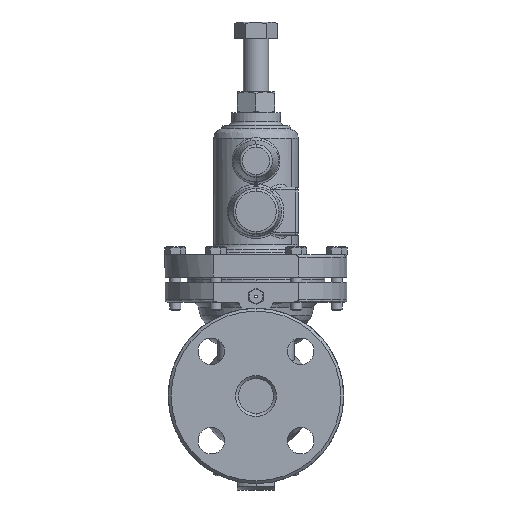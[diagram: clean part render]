
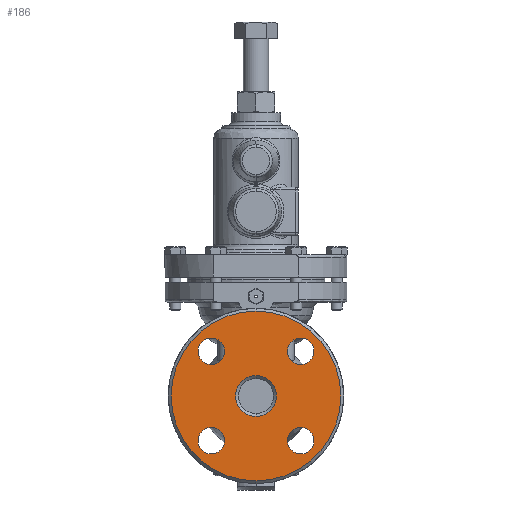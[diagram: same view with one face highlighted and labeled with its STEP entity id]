
A CAD part, left-side view. The second image highlights one B-rep face of the part: STEP entity #186.
In plain terms, the highlighted planar face has unit normal (-1, 0, 0).
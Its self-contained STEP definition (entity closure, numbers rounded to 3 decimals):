
#186=ADVANCED_FACE('',(#1021,#1022,#1023,#1024,#1025,#1026),#1020,.T.);
#1020=PLANE('',#6631);
#1021=FACE_OUTER_BOUND('',#6632,.T.);
#1022=FACE_BOUND('',#6633,.T.);
#1023=FACE_BOUND('',#6634,.T.);
#1024=FACE_BOUND('',#6635,.T.);
#1025=FACE_BOUND('',#6636,.T.);
#1026=FACE_BOUND('',#6637,.T.);
#6628=CARTESIAN_POINT('',(-75.,-114.789,-131.));
#6629=DIRECTION('',(-1.,0.,0.));
#6630=DIRECTION('',(0.,0.,1.));
#6631=AXIS2_PLACEMENT_3D('',#6628,#6629,#6630);
#6632=EDGE_LOOP('',(#12650,#12651));
#6633=EDGE_LOOP('',(#12652,#12653));
#6634=EDGE_LOOP('',(#12654,#12655));
#6635=EDGE_LOOP('',(#12656,#12657));
#6636=EDGE_LOOP('',(#12658,#12659));
#6637=EDGE_LOOP('',(#12660,#12661));
#12650=ORIENTED_EDGE('',*,*,#15166,.T.);
#12651=ORIENTED_EDGE('',*,*,#15167,.T.);
#12652=ORIENTED_EDGE('',*,*,#15168,.F.);
#12653=ORIENTED_EDGE('',*,*,#15169,.F.);
#12654=ORIENTED_EDGE('',*,*,#15170,.F.);
#12655=ORIENTED_EDGE('',*,*,#15171,.F.);
#12656=ORIENTED_EDGE('',*,*,#15172,.F.);
#12657=ORIENTED_EDGE('',*,*,#15173,.F.);
#12658=ORIENTED_EDGE('',*,*,#15174,.F.);
#12659=ORIENTED_EDGE('',*,*,#15175,.F.);
#12660=ORIENTED_EDGE('',*,*,#15176,.F.);
#12661=ORIENTED_EDGE('',*,*,#15177,.F.);
#15166=EDGE_CURVE('',#17616,#17617,#17618,.T.);
#15167=EDGE_CURVE('',#17617,#17616,#17624,.T.);
#15168=EDGE_CURVE('',#17630,#17631,#17632,.T.);
#15169=EDGE_CURVE('',#17631,#17630,#17638,.T.);
#15170=EDGE_CURVE('',#17644,#17645,#17646,.T.);
#15171=EDGE_CURVE('',#17645,#17644,#17652,.T.);
#15172=EDGE_CURVE('',#17658,#17659,#17660,.T.);
#15173=EDGE_CURVE('',#17659,#17658,#17666,.T.);
#15174=EDGE_CURVE('',#17672,#17673,#17674,.T.);
#15175=EDGE_CURVE('',#17673,#17672,#17680,.T.);
#15176=EDGE_CURVE('',#17686,#17687,#17688,.T.);
#15177=EDGE_CURVE('',#17687,#17686,#17694,.T.);
#17616=VERTEX_POINT('',#26449);
#17617=VERTEX_POINT('',#26450);
#17618=CIRCLE('',#26454,60.5);
#17624=CIRCLE('',#26458,60.5);
#17630=VERTEX_POINT('',#26459);
#17631=VERTEX_POINT('',#26460);
#17632=CIRCLE('',#26464,9.5);
#17638=CIRCLE('',#26468,9.5);
#17644=VERTEX_POINT('',#26469);
#17645=VERTEX_POINT('',#26470);
#17646=CIRCLE('',#26474,9.5);
#17652=CIRCLE('',#26478,9.5);
#17658=VERTEX_POINT('',#26479);
#17659=VERTEX_POINT('',#26480);
#17660=CIRCLE('',#26484,9.5);
#17666=CIRCLE('',#26488,9.5);
#17672=VERTEX_POINT('',#26489);
#17673=VERTEX_POINT('',#26490);
#17674=CIRCLE('',#26494,9.5);
#17680=CIRCLE('',#26498,9.5);
#17686=VERTEX_POINT('',#26499);
#17687=VERTEX_POINT('',#26500);
#17688=CIRCLE('',#26504,14.5);
#17694=CIRCLE('',#26508,14.5);
#26449=CARTESIAN_POINT('',(-75.,0.,60.5));
#26450=CARTESIAN_POINT('',(-75.,0.,-60.5));
#26451=CARTESIAN_POINT('',(-75.,0.,0.));
#26452=DIRECTION('',(-1.,0.,0.));
#26453=DIRECTION('',(0.,0.,1.));
#26454=AXIS2_PLACEMENT_3D('',#26451,#26452,#26453);
#26455=CARTESIAN_POINT('',(-75.,0.,0.));
#26456=DIRECTION('',(-1.,0.,0.));
#26457=DIRECTION('',(0.,0.,1.));
#26458=AXIS2_PLACEMENT_3D('',#26455,#26456,#26457);
#26459=CARTESIAN_POINT('',(-75.,-31.82,41.32));
#26460=CARTESIAN_POINT('',(-75.,-31.82,22.32));
#26461=CARTESIAN_POINT('',(-75.,-31.82,31.82));
#26462=DIRECTION('',(-1.,0.,0.));
#26463=DIRECTION('',(0.,0.,-1.));
#26464=AXIS2_PLACEMENT_3D('',#26461,#26462,#26463);
#26465=CARTESIAN_POINT('',(-75.,-31.82,31.82));
#26466=DIRECTION('',(-1.,0.,0.));
#26467=DIRECTION('',(0.,0.,-1.));
#26468=AXIS2_PLACEMENT_3D('',#26465,#26466,#26467);
#26469=CARTESIAN_POINT('',(-75.,31.82,41.32));
#26470=CARTESIAN_POINT('',(-75.,31.82,22.32));
#26471=CARTESIAN_POINT('',(-75.,31.82,31.82));
#26472=DIRECTION('',(-1.,0.,0.));
#26473=DIRECTION('',(0.,0.,-1.));
#26474=AXIS2_PLACEMENT_3D('',#26471,#26472,#26473);
#26475=CARTESIAN_POINT('',(-75.,31.82,31.82));
#26476=DIRECTION('',(-1.,0.,0.));
#26477=DIRECTION('',(0.,0.,-1.));
#26478=AXIS2_PLACEMENT_3D('',#26475,#26476,#26477);
#26479=CARTESIAN_POINT('',(-75.,-31.82,-22.32));
#26480=CARTESIAN_POINT('',(-75.,-31.82,-41.32));
#26481=CARTESIAN_POINT('',(-75.,-31.82,-31.82));
#26482=DIRECTION('',(-1.,0.,0.));
#26483=DIRECTION('',(0.,0.,-1.));
#26484=AXIS2_PLACEMENT_3D('',#26481,#26482,#26483);
#26485=CARTESIAN_POINT('',(-75.,-31.82,-31.82));
#26486=DIRECTION('',(-1.,0.,0.));
#26487=DIRECTION('',(0.,0.,-1.));
#26488=AXIS2_PLACEMENT_3D('',#26485,#26486,#26487);
#26489=CARTESIAN_POINT('',(-75.,31.82,-22.32));
#26490=CARTESIAN_POINT('',(-75.,31.82,-41.32));
#26491=CARTESIAN_POINT('',(-75.,31.82,-31.82));
#26492=DIRECTION('',(-1.,0.,0.));
#26493=DIRECTION('',(0.,0.,-1.));
#26494=AXIS2_PLACEMENT_3D('',#26491,#26492,#26493);
#26495=CARTESIAN_POINT('',(-75.,31.82,-31.82));
#26496=DIRECTION('',(-1.,0.,0.));
#26497=DIRECTION('',(0.,0.,-1.));
#26498=AXIS2_PLACEMENT_3D('',#26495,#26496,#26497);
#26499=CARTESIAN_POINT('',(-75.,0.,-14.5));
#26500=CARTESIAN_POINT('',(-75.,0.,14.5));
#26501=CARTESIAN_POINT('',(-75.,0.,0.));
#26502=DIRECTION('',(-1.,0.,0.));
#26503=DIRECTION('',(0.,0.,1.));
#26504=AXIS2_PLACEMENT_3D('',#26501,#26502,#26503);
#26505=CARTESIAN_POINT('',(-75.,0.,0.));
#26506=DIRECTION('',(-1.,0.,0.));
#26507=DIRECTION('',(0.,0.,1.));
#26508=AXIS2_PLACEMENT_3D('',#26505,#26506,#26507);
